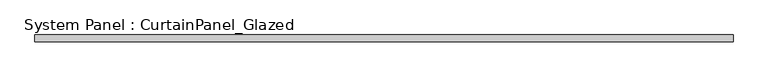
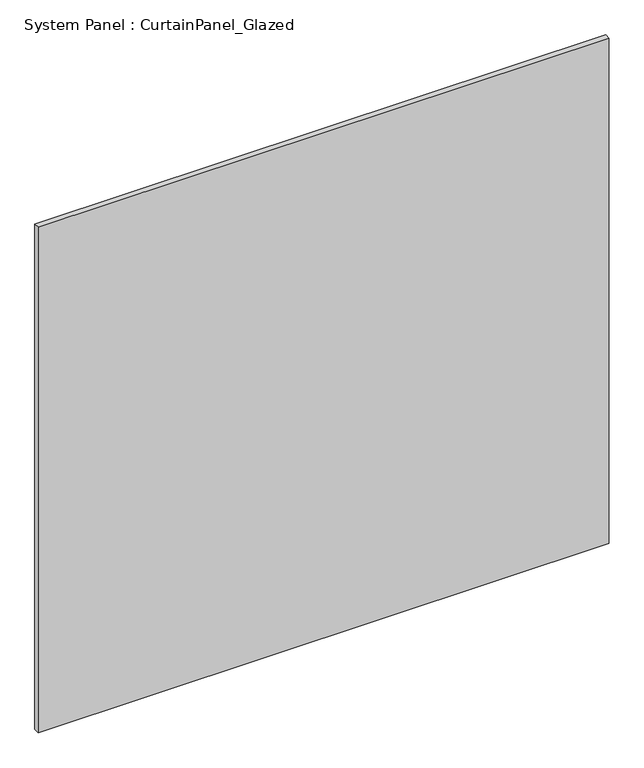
"""IFC4 building model written with IfcOpenShell, lengths in millimetres: plate geometry, System Panel : CurtainPanel_Glazed."""

from ifc_helpers import new_model, si_unit, origin, origin_with_axes, place, context, project, spatial, polyline, outline, extrude, source, transform, mapped, element, save


def system_panel_curtainpanel_glazed_e4a4eab4(model_context):
    return source(origin(), model_context, "Body", "SweptSolid", [
        extrude(outline(polyline([(1301.0000001, -12.5), (-1301.0000001, -12.5), (-1301.0000001, 12.5), (1301.0000001, 12.5), (1301.0000001, -12.5)])), origin_with_axes(), (0.0, 0.0, 1.0), 2436.7),
    ])


if __name__ == "__main__":
    model = new_model("IFC4")
    model_context = context("Model", 3, world=origin())
    ifc_project = project(units=[si_unit("LENGTHUNIT", "METRE", prefix="MILLI")], contexts=[model_context])
    site = spatial("IfcSite", under=ifc_project)
    building = spatial("IfcBuilding", under=site)
    placement = place(None, origin())
    system_panel_curtainpanel_glazed_shape = system_panel_curtainpanel_glazed_e4a4eab4(model_context)
    element("IfcPlate", 1, ObjectType="System Panel : CurtainPanel_Glazed", at=placement, inside=building, context=model_context, shape_type="MappedRepresentation", body=[
        mapped(system_panel_curtainpanel_glazed_shape, transform((0.0, 0.0, 0.0), x_axis=(1.0, 0.0, 0.0), y_axis=(0.0, 1.0, 0.0), z_axis=(0.0, 0.0, 1.0))),
    ])
    save(model, "model.ifc")
